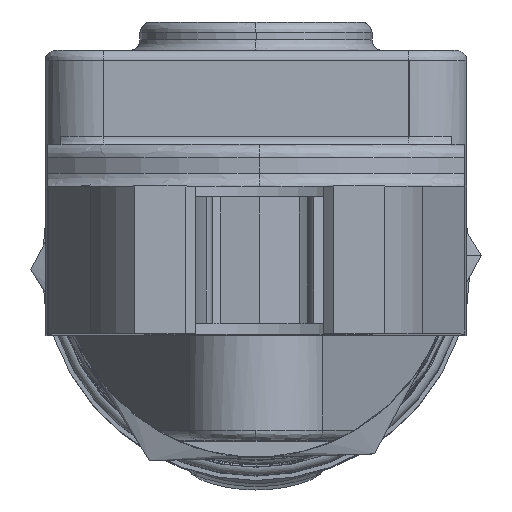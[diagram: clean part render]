
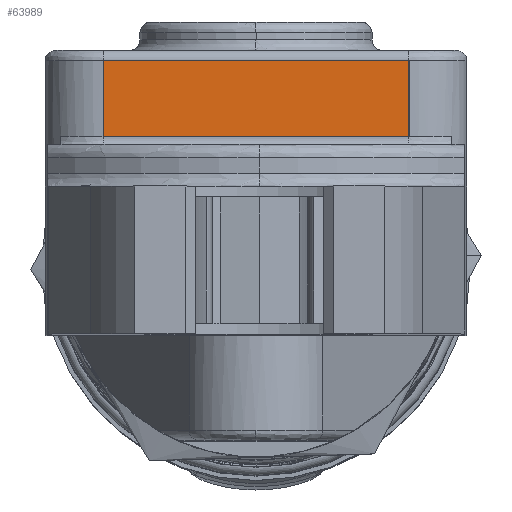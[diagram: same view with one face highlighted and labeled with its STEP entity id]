
A CAD part, top view. The second image highlights one B-rep face of the part: STEP entity #63989.
In plain terms, the highlighted planar face has unit normal (0, 0, 1).
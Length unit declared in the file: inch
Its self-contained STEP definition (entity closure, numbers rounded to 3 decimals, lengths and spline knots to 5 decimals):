
#2086 = CARTESIAN_POINT ( 'NONE',  ( 0.57087, 0.78547, 5.33524 ) ) ;
#2245 = FACE_OUTER_BOUND ( 'NONE', #3421, .T. ) ;
#3421 = EDGE_LOOP ( 'NONE', ( #36895, #46930, #19651, #46443 ) ) ;
#7763 = CARTESIAN_POINT ( 'NONE',  ( 0., 0.50121, 5.33524 ) ) ;
#8857 = DIRECTION ( 'NONE',  ( 0., 1., 0. ) ) ;
#10461 = EDGE_CURVE ( 'NONE', #37778, #60471, #50142, .T. ) ;
#12590 = CARTESIAN_POINT ( 'NONE',  ( 0., 0.78547, 5.33524 ) ) ;
#15689 = VERTEX_POINT ( 'NONE', #42629 ) ;
#19651 = ORIENTED_EDGE ( 'NONE', *, *, #34886, .F. ) ;
#20971 = EDGE_CURVE ( 'NONE', #15689, #50754, #61663, .T. ) ;
#28196 = VECTOR ( 'NONE', #8857, 39.37008 ) ;
#34886 = EDGE_CURVE ( 'NONE', #37778, #50754, #45616, .T. ) ;
#36461 = AXIS2_PLACEMENT_3D ( 'NONE', #43921, #65151, #38763 ) ;
#36895 = ORIENTED_EDGE ( 'NONE', *, *, #58272, .F. ) ;
#37778 = VERTEX_POINT ( 'NONE', #54805 ) ;
#38132 = CARTESIAN_POINT ( 'NONE',  ( 0.57087, 0.27365, 5.33524 ) ) ;
#38763 = DIRECTION ( 'NONE',  ( 0., -1., 0. ) ) ;
#40343 = VECTOR ( 'NONE', #58893, 39.37008 ) ;
#41240 = VECTOR ( 'NONE', #66856, 39.37008 ) ;
#42629 = CARTESIAN_POINT ( 'NONE',  ( -0.57087, 0.78547, 5.33524 ) ) ;
#43921 = CARTESIAN_POINT ( 'NONE',  ( 0.57087, 0.78547, 5.33524 ) ) ;
#44267 = PLANE ( 'NONE',  #36461 ) ;
#44952 = DIRECTION ( 'NONE',  ( -1., 0., 0. ) ) ;
#45616 = LINE ( 'NONE', #7763, #58444 ) ;
#46443 = ORIENTED_EDGE ( 'NONE', *, *, #10461, .T. ) ;
#46930 = ORIENTED_EDGE ( 'NONE', *, *, #20971, .T. ) ;
#48691 = LINE ( 'NONE', #12590, #40343 ) ;
#50142 = LINE ( 'NONE', #38132, #28196 ) ;
#50754 = VERTEX_POINT ( 'NONE', #50853 ) ;
#50853 = CARTESIAN_POINT ( 'NONE',  ( -0.57087, 0.50121, 5.33524 ) ) ;
#51790 = CARTESIAN_POINT ( 'NONE',  ( -0.57087, 0.27365, 5.33524 ) ) ;
#54805 = CARTESIAN_POINT ( 'NONE',  ( 0.57087, 0.50121, 5.33524 ) ) ;
#58272 = EDGE_CURVE ( 'NONE', #15689, #60471, #48691, .T. ) ;
#58444 = VECTOR ( 'NONE', #44952, 39.37008 ) ;
#58893 = DIRECTION ( 'NONE',  ( 1., 0., 0. ) ) ;
#60471 = VERTEX_POINT ( 'NONE', #2086 ) ;
#61663 = LINE ( 'NONE', #51790, #41240 ) ;
#63989 = ADVANCED_FACE ( 'NONE', ( #2245 ), #44267, .F. ) ;
#65151 = DIRECTION ( 'NONE',  ( 0., 0., -1. ) ) ;
#66856 = DIRECTION ( 'NONE',  ( 0., -1., 0. ) ) ;
